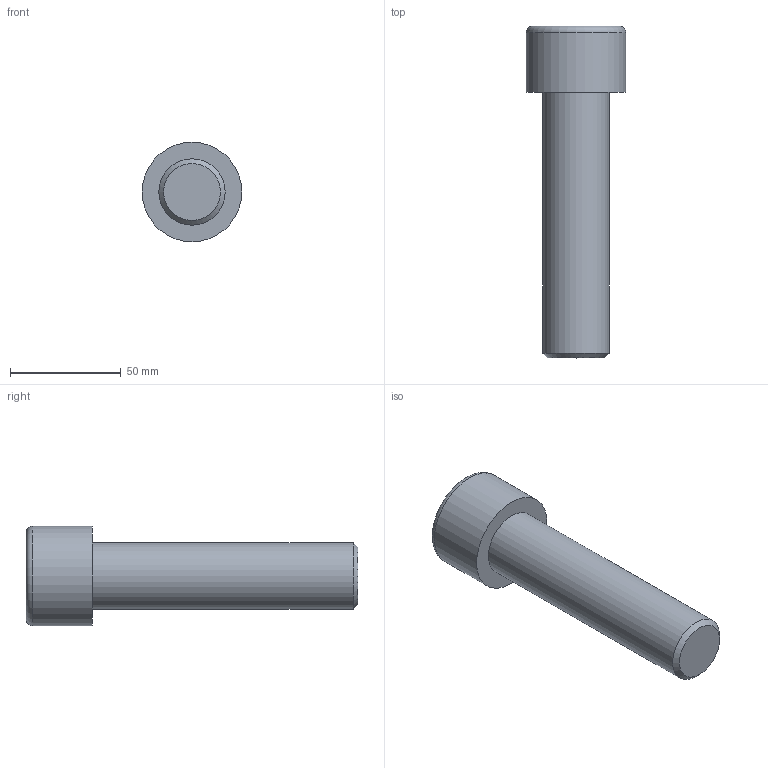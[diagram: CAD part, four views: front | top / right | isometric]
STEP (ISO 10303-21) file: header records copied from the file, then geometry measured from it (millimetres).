
FILE_DESCRIPTION(/* description */ (''),/* implementation_level */ '2;1');
FILE_NAME(/* name */ 'C:\Users\D\Documents\Inventor\各種小物\JIS\JIS B 1176 六角穴付きボルト\M30x120.stp',/* time_stamp */ '2022-05-09T19:01:51+09:00',/* author */ ('D'),/* organization */ (''),/* preprocessor_version */ 'ST-DEVELOPER v18',/* originating_system */ 'Autodesk Inventor 2020',/* authorisation */ '');
FILE_SCHEMA (('AUTOMOTIVE_DESIGN { 1 0 10303 214 3 1 1 }'));
Length unit declared in the file: millimetre
Products named in the file (1): M1.6x2.5
Bounding box: 45 x 150 x 45 mm (x, y, z)
Volume: 124361.7 mm3; surface area: 19716.3 mm2
Topology: 1 solids, 1 shells, 14 faces, 33 edges, 22 vertices
Faces by surface type: plane 9, cone 2, cylinder 2, torus 1
Full cylindrical faces by diameter (mm): 30 x1, 45 x1
Entity records: 435 total; most frequent: CARTESIAN_POINT 83, ORIENTED_EDGE 64, DIRECTION 64, EDGE_CURVE 32, AXIS2_PLACEMENT_3D 24, VERTEX_POINT 22, EDGE_LOOP 16, LINE 16
